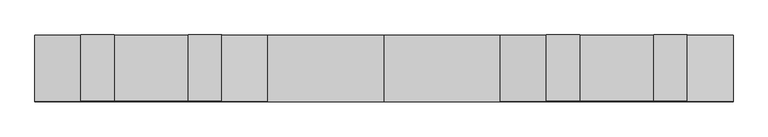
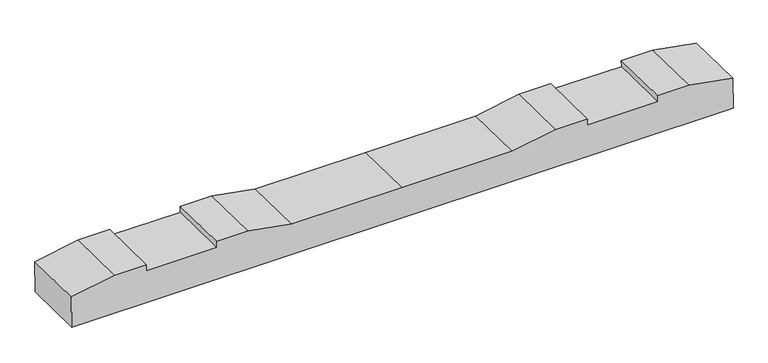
"""IFC4 building model written with IfcOpenShell, lengths in millimetres: proxy geometry, 轨枕-立面角度 : 轨枕-立面角度."""

from ifc_helpers import new_model, si_unit, frame, origin, place, context, project, spatial, polyline, outline, extrude, source, transform, mapped, element, save


def generic_models_ed3b71c7(model_context):
    return source(origin(), model_context, "Body", "SweptSolid", [
        extrude(outline(polyline([(0.0, 0.0), (0.0, -100.0206889), (-137.8834664, -124.5000001), (-237.8834664, -124.5000001), (-237.8834664, -104.5000001), (-461.8834664, -104.5000001), (-461.8834664, -124.5000001), (-561.8834664, -124.5000001), (-699.8834664, -100.0), (-1049.8834664, -100.0), (-1399.8834664, -100.0), (-1537.8834664, -124.5000001), (-1637.8834664, -124.5000001), (-1637.8834664, -104.5000001), (-1861.8834664, -104.5000001), (-1861.8834664, -124.5000001), (-1961.8834664, -124.5000001), (-2099.7669328, -100.0206889), (-2099.7669328, 0.0), (0.0, 0.0)])), frame((-1049.8834664, 98.5340939, -105.8833431), z_axis=(0.0, -0.9999029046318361, 0.013934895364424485), x_axis=(-1.0, 0.0, 0.0)), (0.0, 0.0, 1.0), 200.0),
    ])


if __name__ == "__main__":
    model = new_model("IFC4")
    model_context = context("Model", 3, world=origin())
    ifc_project = project(units=[si_unit("LENGTHUNIT", "METRE", prefix="MILLI")], contexts=[model_context])
    site = spatial("IfcSite", under=ifc_project)
    building = spatial("IfcBuilding", under=site)
    placement = place(None, origin())
    generic_models_shape = generic_models_ed3b71c7(model_context)
    element("IfcBuildingElementProxy", 1, Name="轨枕-立面角度 : 轨枕-立面角度", ObjectType="轨枕-立面角度 : 轨枕-立面角度", at=placement, inside=building, context=model_context, shape_type="MappedRepresentation", body=[
        mapped(generic_models_shape, transform((0.0, 0.0, 0.0), x_axis=(1.0, 0.0, 0.0), y_axis=(0.0, 1.0, 0.0), z_axis=(0.0, 0.0, 1.0))),
    ])
    save(model, "model.ifc")
